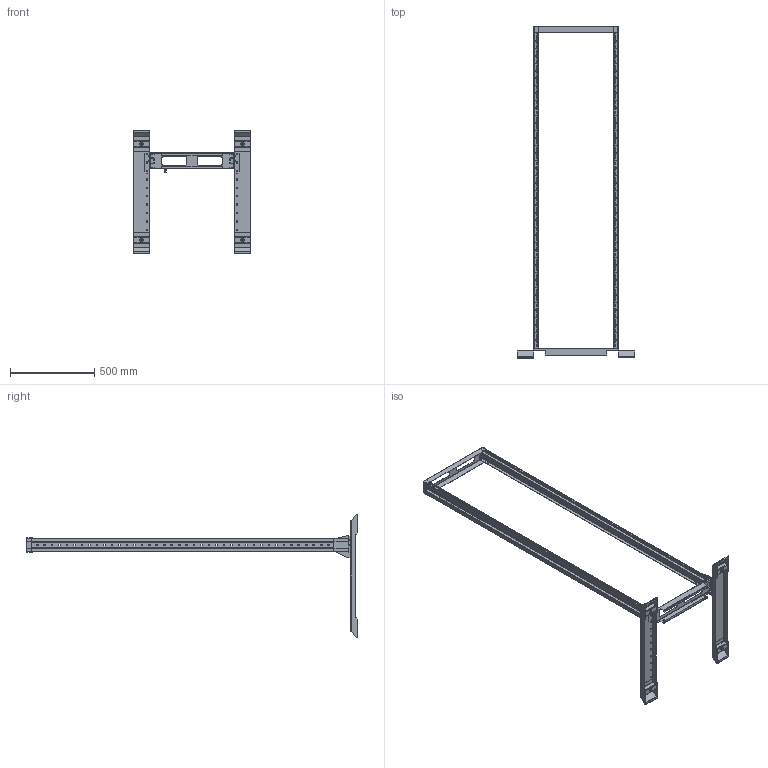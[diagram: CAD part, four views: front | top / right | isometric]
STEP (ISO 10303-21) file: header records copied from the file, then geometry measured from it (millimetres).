
FILE_DESCRIPTION (( 'STEP AP203' ), '1' );
FILE_NAME ('IFO 42.57.74 Ñòîéêà òåëåêîììóíèêàöèîííàÿ.STEP', '2013-01-15T12:25:12', ( 'System' ), ( '' ), 'SwSTEP 2.0', 'SolidWorks 2012', '' );
FILE_SCHEMA (( 'CONFIG_CONTROL_DESIGN' ));
Length unit declared in the file: millimetre
Products named in the file (3): IFO 42.57.74 Ñòîéêà òåëåêîììóíèêàöèîííàÿ; IFO 74 ﾎ魵瑙韃; IFO 42.57 01.000捘 冓憵
Assembly tree (3 placements, depth 2):
  IFO 42.57.74 Ñòîéêà òåëåêîììóíèêàöèîííàÿ
    IFO 42.57 01.000捘 冓憵
    IFO 74 ﾎ魵瑙韃  x2
Bounding box: 700 x 1973.73 x 734.93 mm (x, y, z)
Volume: 2147158.9 mm3; surface area: 2159250.9 mm2
Topology: 4 solids, 4 shells, 4298 faces, 12612 edges, 8304 vertices
Faces by surface type: plane 2384, cylinder 1778, bspline 72, torus 36, cone 28
Entity records: 130009 total; most frequent: CARTESIAN_POINT 24287, ORIENTED_EDGE 22226, DIRECTION 22156, EDGE_CURVE 11113, AXIS2_PLACEMENT_3D 7480, VERTEX_POINT 7319, VECTOR 7196, LINE 7196
